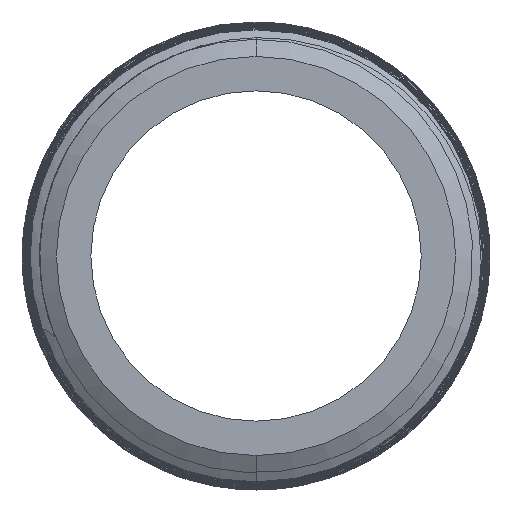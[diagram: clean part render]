
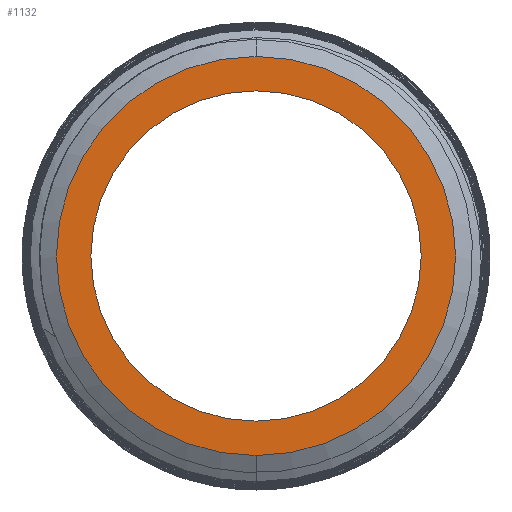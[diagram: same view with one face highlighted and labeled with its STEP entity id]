
A CAD part, left-side view. The second image highlights one B-rep face of the part: STEP entity #1132.
In plain terms, the highlighted planar face has unit normal (-1, 0, 0).
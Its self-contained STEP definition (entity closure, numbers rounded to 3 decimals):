
#31 = PLANE ( 'NONE',  #2724 ) ;
#175 = CARTESIAN_POINT ( 'NONE',  ( -75., 0., 0. ) ) ;
#531 = VERTEX_POINT ( 'NONE', #3540 ) ;
#690 = ORIENTED_EDGE ( 'NONE', *, *, #6285, .F. ) ;
#692 = DIRECTION ( 'NONE',  ( 0., 0., -1. ) ) ;
#870 = VERTEX_POINT ( 'NONE', #4646 ) ;
#912 = CIRCLE ( 'NONE', #2232, 3.6 ) ;
#1132 = ADVANCED_FACE ( 'NONE', ( #4405, #6512 ), #31, .F. ) ;
#1392 = AXIS2_PLACEMENT_3D ( 'NONE', #5935, #4923, #5370 ) ;
#1514 = EDGE_CURVE ( 'NONE', #531, #4875, #1714, .T. ) ;
#1691 = CARTESIAN_POINT ( 'NONE',  ( -75., 3.6, 0. ) ) ;
#1714 = CIRCLE ( 'NONE', #1392, 3.6 ) ;
#1725 = EDGE_CURVE ( 'NONE', #870, #1773, #3820, .T. ) ;
#1773 = VERTEX_POINT ( 'NONE', #6678 ) ;
#1927 = EDGE_CURVE ( 'NONE', #1773, #870, #5274, .T. ) ;
#2049 = EDGE_LOOP ( 'NONE', ( #6703, #4759 ) ) ;
#2232 = AXIS2_PLACEMENT_3D ( 'NONE', #175, #3434, #5519 ) ;
#2724 = AXIS2_PLACEMENT_3D ( 'NONE', #1691, #5454, #692 ) ;
#3235 = CARTESIAN_POINT ( 'NONE',  ( -75., 0., -3.6 ) ) ;
#3434 = DIRECTION ( 'NONE',  ( -1., 0., 0. ) ) ;
#3540 = CARTESIAN_POINT ( 'NONE',  ( -75., 0., 3.6 ) ) ;
#3820 = CIRCLE ( 'NONE', #4398, 4.35 ) ;
#3983 = DIRECTION ( 'NONE',  ( 0., 0., 1. ) ) ;
#4209 = DIRECTION ( 'NONE',  ( 0., 0., 1. ) ) ;
#4398 = AXIS2_PLACEMENT_3D ( 'NONE', #5063, #6573, #3983 ) ;
#4405 = FACE_BOUND ( 'NONE', #6786, .T. ) ;
#4646 = CARTESIAN_POINT ( 'NONE',  ( -75., 0., -4.35 ) ) ;
#4759 = ORIENTED_EDGE ( 'NONE', *, *, #1927, .T. ) ;
#4875 = VERTEX_POINT ( 'NONE', #3235 ) ;
#4923 = DIRECTION ( 'NONE',  ( -1., 0., 0. ) ) ;
#5063 = CARTESIAN_POINT ( 'NONE',  ( -75., 0., 0. ) ) ;
#5274 = CIRCLE ( 'NONE', #6184, 4.35 ) ;
#5370 = DIRECTION ( 'NONE',  ( 0., 0., 1. ) ) ;
#5454 = DIRECTION ( 'NONE',  ( 1., 0., 0. ) ) ;
#5519 = DIRECTION ( 'NONE',  ( 0., 0., 1. ) ) ;
#5856 = DIRECTION ( 'NONE',  ( -1., 0., 0. ) ) ;
#5935 = CARTESIAN_POINT ( 'NONE',  ( -75., 0., 0. ) ) ;
#6145 = ORIENTED_EDGE ( 'NONE', *, *, #1514, .F. ) ;
#6184 = AXIS2_PLACEMENT_3D ( 'NONE', #6453, #5856, #4209 ) ;
#6285 = EDGE_CURVE ( 'NONE', #4875, #531, #912, .T. ) ;
#6453 = CARTESIAN_POINT ( 'NONE',  ( -75., 0., 0. ) ) ;
#6512 = FACE_OUTER_BOUND ( 'NONE', #2049, .T. ) ;
#6573 = DIRECTION ( 'NONE',  ( -1., 0., 0. ) ) ;
#6678 = CARTESIAN_POINT ( 'NONE',  ( -75., 0., 4.35 ) ) ;
#6703 = ORIENTED_EDGE ( 'NONE', *, *, #1725, .T. ) ;
#6786 = EDGE_LOOP ( 'NONE', ( #6145, #690 ) ) ;
